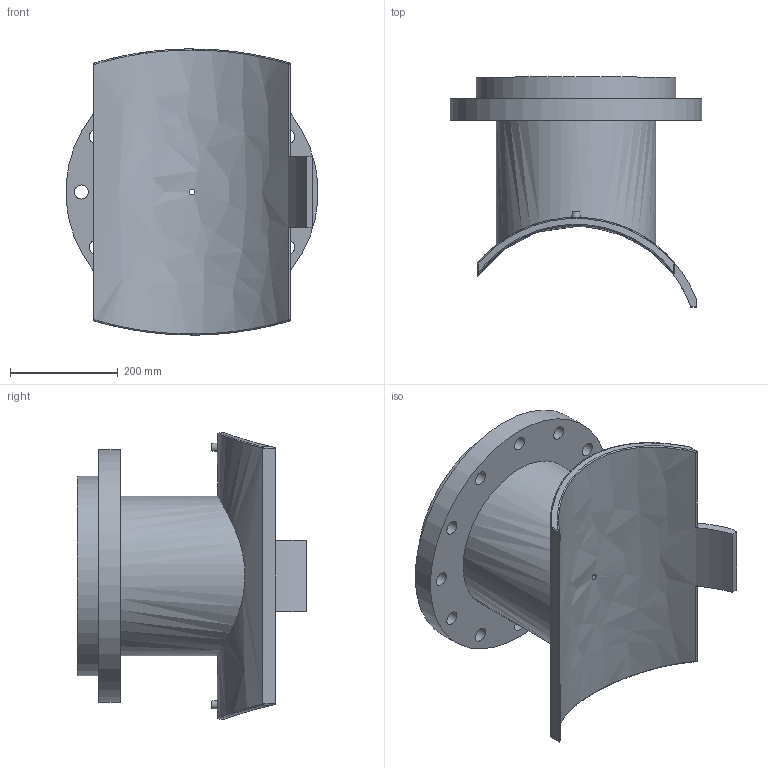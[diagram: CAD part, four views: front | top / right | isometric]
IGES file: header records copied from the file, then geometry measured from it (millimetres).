
Global section: file name: 495903450300T; native system: Autodesk Inventor 2019; preprocessor: unknown; author: KIM; date: 20240403.210432; units: millimetre
Bounding box: 465.93 x 425.66 x 529.86 mm (x, y, z)
Volume: 13541498.8 mm3; surface area: 1249892.3 mm2
Topology: 1 solids, 1 shells, 62 faces, 163 edges, 126 vertices
Faces by surface type: bspline 62
